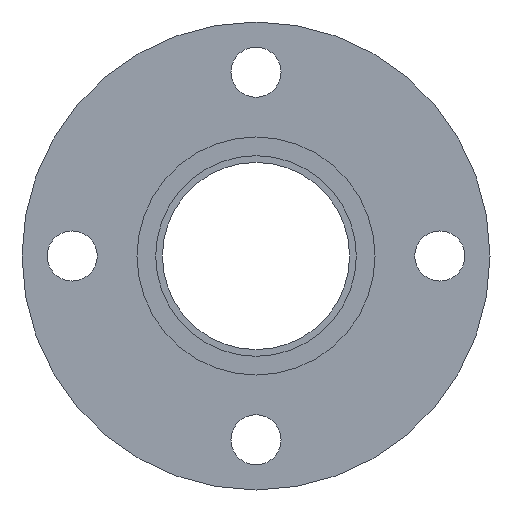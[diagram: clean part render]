
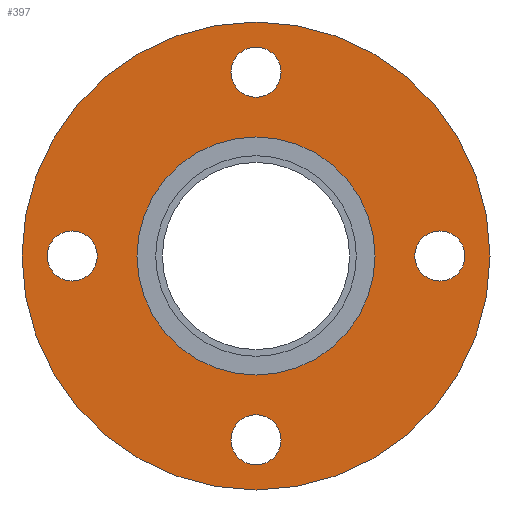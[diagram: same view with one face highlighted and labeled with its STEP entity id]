
A CAD part, left-side view. The second image highlights one B-rep face of the part: STEP entity #397.
In plain terms, the highlighted planar face has unit normal (-1, 0, 0).
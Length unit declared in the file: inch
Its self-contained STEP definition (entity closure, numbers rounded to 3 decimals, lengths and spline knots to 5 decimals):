
#49=FACE_BOUND('',#103,.T.);
#50=FACE_BOUND('',#104,.T.);
#51=FACE_BOUND('',#105,.T.);
#52=FACE_BOUND('',#106,.T.);
#53=FACE_BOUND('',#107,.T.);
#64=PLANE('',#463);
#80=FACE_OUTER_BOUND('',#102,.T.);
#102=EDGE_LOOP('',(#321,#322));
#103=EDGE_LOOP('',(#323));
#104=EDGE_LOOP('',(#324));
#105=EDGE_LOOP('',(#325));
#106=EDGE_LOOP('',(#326));
#107=EDGE_LOOP('',(#327,#328));
#141=CIRCLE('',#424,0.375);
#143=CIRCLE('',#427,0.375);
#145=CIRCLE('',#430,0.375);
#147=CIRCLE('',#433,0.375);
#166=CIRCLE('',#461,1.78);
#167=CIRCLE('',#462,1.78);
#168=CIRCLE('',#464,3.5);
#169=CIRCLE('',#465,3.5);
#177=VERTEX_POINT('',#640);
#179=VERTEX_POINT('',#646);
#181=VERTEX_POINT('',#652);
#183=VERTEX_POINT('',#658);
#202=VERTEX_POINT('',#710);
#203=VERTEX_POINT('',#711);
#204=VERTEX_POINT('',#716);
#205=VERTEX_POINT('',#717);
#214=EDGE_CURVE('',#177,#177,#141,.T.);
#217=EDGE_CURVE('',#179,#179,#143,.T.);
#220=EDGE_CURVE('',#181,#181,#145,.T.);
#223=EDGE_CURVE('',#183,#183,#147,.T.);
#246=EDGE_CURVE('',#202,#203,#166,.T.);
#247=EDGE_CURVE('',#203,#202,#167,.T.);
#249=EDGE_CURVE('',#204,#205,#168,.T.);
#250=EDGE_CURVE('',#205,#204,#169,.T.);
#321=ORIENTED_EDGE('',*,*,#249,.F.);
#322=ORIENTED_EDGE('',*,*,#250,.F.);
#323=ORIENTED_EDGE('',*,*,#214,.T.);
#324=ORIENTED_EDGE('',*,*,#217,.T.);
#325=ORIENTED_EDGE('',*,*,#220,.T.);
#326=ORIENTED_EDGE('',*,*,#223,.T.);
#327=ORIENTED_EDGE('',*,*,#246,.T.);
#328=ORIENTED_EDGE('',*,*,#247,.T.);
#397=ADVANCED_FACE('',(#80,#49,#50,#51,#52,#53),#64,.T.);
#424=AXIS2_PLACEMENT_3D('',#642,#496,#497);
#427=AXIS2_PLACEMENT_3D('',#648,#503,#504);
#430=AXIS2_PLACEMENT_3D('',#654,#510,#511);
#433=AXIS2_PLACEMENT_3D('',#660,#517,#518);
#461=AXIS2_PLACEMENT_3D('',#712,#577,#578);
#462=AXIS2_PLACEMENT_3D('',#713,#579,#580);
#463=AXIS2_PLACEMENT_3D('',#715,#582,#583);
#464=AXIS2_PLACEMENT_3D('',#718,#584,#585);
#465=AXIS2_PLACEMENT_3D('',#719,#586,#587);
#496=DIRECTION('center_axis',(1.,0.,0.));
#497=DIRECTION('ref_axis',(0.,1.,0.));
#503=DIRECTION('center_axis',(1.,0.,0.));
#504=DIRECTION('ref_axis',(0.,0.,-1.));
#510=DIRECTION('center_axis',(1.,0.,0.));
#511=DIRECTION('ref_axis',(0.,-1.,0.));
#517=DIRECTION('center_axis',(1.,0.,0.));
#518=DIRECTION('ref_axis',(0.,0.,1.));
#577=DIRECTION('center_axis',(1.,0.,0.));
#578=DIRECTION('ref_axis',(0.,0.,-1.));
#579=DIRECTION('center_axis',(1.,0.,0.));
#580=DIRECTION('ref_axis',(0.,0.,-1.));
#582=DIRECTION('center_axis',(-1.,0.,0.));
#583=DIRECTION('ref_axis',(0.,0.,1.));
#584=DIRECTION('center_axis',(1.,0.,0.));
#585=DIRECTION('ref_axis',(0.,0.,-1.));
#586=DIRECTION('center_axis',(1.,0.,0.));
#587=DIRECTION('ref_axis',(0.,0.,-1.));
#640=CARTESIAN_POINT('',(-0.8725,-0.375,-2.75));
#642=CARTESIAN_POINT('Origin',(-0.8725,0.,-2.75));
#646=CARTESIAN_POINT('',(-0.8725,-2.75,0.375));
#648=CARTESIAN_POINT('Origin',(-0.8725,-2.75,0.));
#652=CARTESIAN_POINT('',(-0.8725,0.375,2.75));
#654=CARTESIAN_POINT('Origin',(-0.8725,0.,2.75));
#658=CARTESIAN_POINT('',(-0.8725,2.75,-0.375));
#660=CARTESIAN_POINT('Origin',(-0.8725,2.75,0.));
#710=CARTESIAN_POINT('',(-0.8725,1.78,0.));
#711=CARTESIAN_POINT('',(-0.8725,-1.78,0.));
#712=CARTESIAN_POINT('Origin',(-0.8725,0.,
0.));
#713=CARTESIAN_POINT('Origin',(-0.8725,0.,
0.));
#715=CARTESIAN_POINT('Origin',(-0.8725,3.5,0.));
#716=CARTESIAN_POINT('',(-0.8725,3.5,0.));
#717=CARTESIAN_POINT('',(-0.8725,-3.5,0.));
#718=CARTESIAN_POINT('Origin',(-0.8725,0.,0.));
#719=CARTESIAN_POINT('Origin',(-0.8725,0.,0.));
